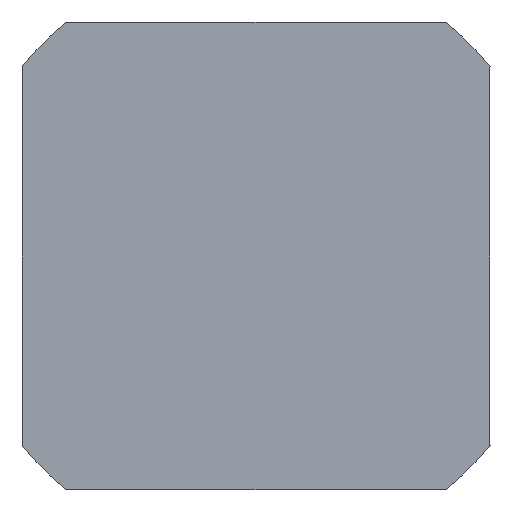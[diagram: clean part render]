
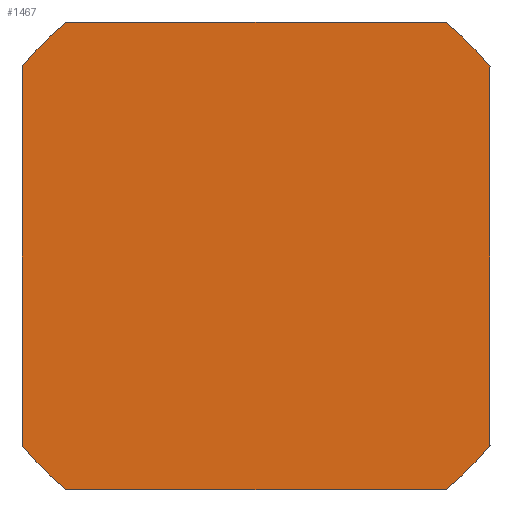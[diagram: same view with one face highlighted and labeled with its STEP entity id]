
A CAD part, front view. The second image highlights one B-rep face of the part: STEP entity #1467.
In plain terms, the highlighted planar face has unit normal (0, -1, 0).
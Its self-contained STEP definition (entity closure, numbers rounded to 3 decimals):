
#47 = ORIENTED_EDGE ( 'NONE', *, *, #1168, .F. ) ;
#50 = ORIENTED_EDGE ( 'NONE', *, *, #1290, .F. ) ;
#67 = ORIENTED_EDGE ( 'NONE', *, *, #1279, .F. ) ;
#88 = FACE_OUTER_BOUND ( 'NONE', #1056, .T. ) ;
#149 = VERTEX_POINT ( 'NONE', #425 ) ;
#150 = CARTESIAN_POINT ( 'NONE',  ( -21., 0., -16.971 ) ) ;
#168 = VERTEX_POINT ( 'NONE', #150 ) ;
#175 = AXIS2_PLACEMENT_3D ( 'NONE', #304, #300, #457 ) ;
#177 = CARTESIAN_POINT ( 'NONE',  ( 16.971, 0., 21. ) ) ;
#215 = EDGE_CURVE ( 'NONE', #771, #736, #1548, .T. ) ;
#238 = CARTESIAN_POINT ( 'NONE',  ( -21., 0., 21. ) ) ;
#288 = VERTEX_POINT ( 'NONE', #624 ) ;
#300 = DIRECTION ( 'NONE',  ( 0., 1., 0. ) ) ;
#304 = CARTESIAN_POINT ( 'NONE',  ( 0., 0., 0. ) ) ;
#333 = LINE ( 'NONE', #347, #1501 ) ;
#347 = CARTESIAN_POINT ( 'NONE',  ( 21., 0., -21. ) ) ;
#421 = ORIENTED_EDGE ( 'NONE', *, *, #1077, .F. ) ;
#425 = CARTESIAN_POINT ( 'NONE',  ( -16.971, 0., -21. ) ) ;
#437 = DIRECTION ( 'NONE',  ( 0., 1., 0. ) ) ;
#452 = DIRECTION ( 'NONE',  ( 0., 0., 1. ) ) ;
#457 = DIRECTION ( 'NONE',  ( 0., 0., 1. ) ) ;
#502 = ORIENTED_EDGE ( 'NONE', *, *, #1566, .F. ) ;
#512 = EDGE_CURVE ( 'NONE', #925, #771, #1334, .T. ) ;
#516 = DIRECTION ( 'NONE',  ( 1., 0., 0. ) ) ;
#572 = AXIS2_PLACEMENT_3D ( 'NONE', #1050, #1522, #1633 ) ;
#580 = CIRCLE ( 'NONE', #572, 27. ) ;
#585 = AXIS2_PLACEMENT_3D ( 'NONE', #688, #437, #695 ) ;
#620 = DIRECTION ( 'NONE',  ( 0., 0., 1. ) ) ;
#624 = CARTESIAN_POINT ( 'NONE',  ( 21., 0., 16.971 ) ) ;
#627 = DIRECTION ( 'NONE',  ( 0., 1., 0. ) ) ;
#633 = ORIENTED_EDGE ( 'NONE', *, *, #1354, .F. ) ;
#677 = VERTEX_POINT ( 'NONE', #1128 ) ;
#688 = CARTESIAN_POINT ( 'NONE',  ( 0., 0., 0. ) ) ;
#695 = DIRECTION ( 'NONE',  ( 0., 0., 1. ) ) ;
#736 = VERTEX_POINT ( 'NONE', #177 ) ;
#747 = DIRECTION ( 'NONE',  ( 0., 0., -1. ) ) ;
#771 = VERTEX_POINT ( 'NONE', #1657 ) ;
#816 = CIRCLE ( 'NONE', #585, 27. ) ;
#827 = CIRCLE ( 'NONE', #1095, 27. ) ;
#910 = ORIENTED_EDGE ( 'NONE', *, *, #215, .F. ) ;
#925 = VERTEX_POINT ( 'NONE', #1230 ) ;
#1002 = ORIENTED_EDGE ( 'NONE', *, *, #512, .F. ) ;
#1027 = DIRECTION ( 'NONE',  ( -1., 0., 0. ) ) ;
#1050 = CARTESIAN_POINT ( 'NONE',  ( 0., 0., 0. ) ) ;
#1056 = EDGE_LOOP ( 'NONE', ( #50, #910, #1002, #67, #47, #502, #421, #633 ) ) ;
#1077 = EDGE_CURVE ( 'NONE', #1716, #677, #827, .T. ) ;
#1095 = AXIS2_PLACEMENT_3D ( 'NONE', #1523, #1642, #452 ) ;
#1128 = CARTESIAN_POINT ( 'NONE',  ( 16.971, 0., -21. ) ) ;
#1129 = LINE ( 'NONE', #1331, #1478 ) ;
#1162 = LINE ( 'NONE', #1444, #1640 ) ;
#1168 = EDGE_CURVE ( 'NONE', #149, #168, #816, .T. ) ;
#1174 = PLANE ( 'NONE',  #1175 ) ;
#1175 = AXIS2_PLACEMENT_3D ( 'NONE', #1439, #627, #620 ) ;
#1230 = CARTESIAN_POINT ( 'NONE',  ( -21., 0., 16.971 ) ) ;
#1279 = EDGE_CURVE ( 'NONE', #168, #925, #1129, .T. ) ;
#1290 = EDGE_CURVE ( 'NONE', #736, #288, #580, .T. ) ;
#1331 = CARTESIAN_POINT ( 'NONE',  ( -21., 0., -21. ) ) ;
#1334 = CIRCLE ( 'NONE', #175, 27. ) ;
#1354 = EDGE_CURVE ( 'NONE', #288, #1716, #333, .T. ) ;
#1439 = CARTESIAN_POINT ( 'NONE',  ( 0., 0., 0. ) ) ;
#1444 = CARTESIAN_POINT ( 'NONE',  ( -21., 0., -21. ) ) ;
#1467 = ADVANCED_FACE ( 'NONE', ( #88 ), #1174, .F. ) ;
#1477 = CARTESIAN_POINT ( 'NONE',  ( 21., 0., -16.971 ) ) ;
#1478 = VECTOR ( 'NONE', #1623, 1000. ) ;
#1501 = VECTOR ( 'NONE', #747, 1000. ) ;
#1508 = VECTOR ( 'NONE', #516, 1000. ) ;
#1522 = DIRECTION ( 'NONE',  ( 0., 1., 0. ) ) ;
#1523 = CARTESIAN_POINT ( 'NONE',  ( 0., 0., 0. ) ) ;
#1548 = LINE ( 'NONE', #238, #1508 ) ;
#1566 = EDGE_CURVE ( 'NONE', #677, #149, #1162, .T. ) ;
#1623 = DIRECTION ( 'NONE',  ( 0., 0., 1. ) ) ;
#1633 = DIRECTION ( 'NONE',  ( 0., 0., 1. ) ) ;
#1640 = VECTOR ( 'NONE', #1027, 1000. ) ;
#1642 = DIRECTION ( 'NONE',  ( 0., 1., 0. ) ) ;
#1657 = CARTESIAN_POINT ( 'NONE',  ( -16.971, 0., 21. ) ) ;
#1716 = VERTEX_POINT ( 'NONE', #1477 ) ;
